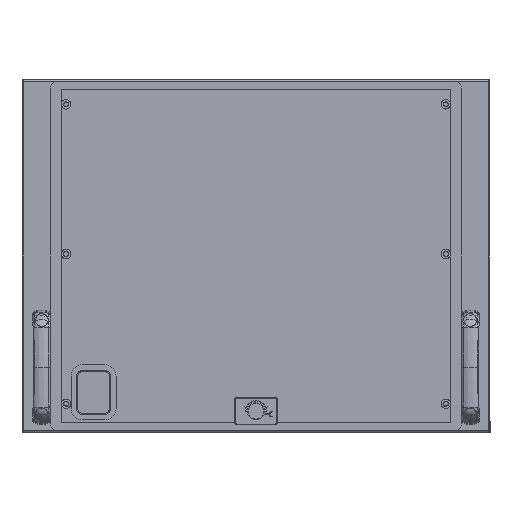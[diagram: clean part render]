
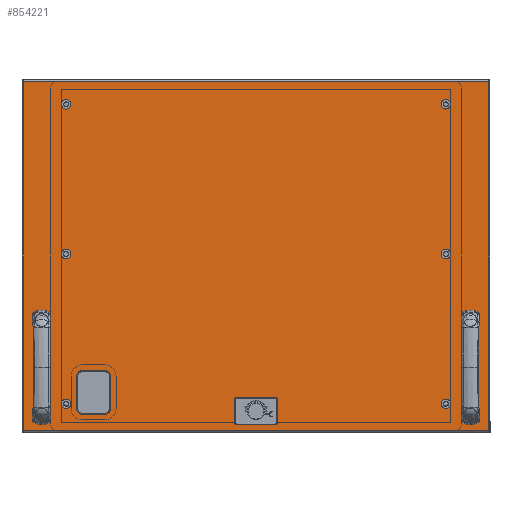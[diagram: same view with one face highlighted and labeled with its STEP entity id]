
A CAD part, front view. The second image highlights one B-rep face of the part: STEP entity #854221.
In plain terms, the highlighted planar face has unit normal (0, -1, 0) as drawn and (0, 0, 1) by its records, which use the part's own axes.
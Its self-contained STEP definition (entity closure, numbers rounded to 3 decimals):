
#851596=CARTESIAN_POINT(' ',(2.3,444.7,0.));
#851597=VERTEX_POINT(' ',#851596);
#851611=CARTESIAN_POINT(' ',(2.3,444.7,0.));
#851616=DIRECTION(' ',(1.,0.,0.));
#851621=VECTOR(' ',#851616,1.);
#851626=LINE('',#851611,#851621);
#851631=CARTESIAN_POINT(' ',(591.7,444.7,0.));
#851632=VERTEX_POINT(' ',#851631);
#851636=EDGE_CURVE(' ',#851597,#851632,#851626,.T.);
#853321=DIRECTION(' ',(-0.,-0.,1.));
#853326=CARTESIAN_POINT(' ',(591.7,2.3,0.));
#853331=DIRECTION(' ',(0.,1.,0.));
#853336=AXIS2_PLACEMENT_3D(' ',#853326,#853321,#853331);
#853341=PLANE('NONE',#853336);
#853346=CARTESIAN_POINT(' ',(591.7,444.7,0.));
#853351=DIRECTION(' ',(0.,-1.,0.));
#853356=VECTOR(' ',#853351,1.);
#853361=LINE('',#853346,#853356);
#853366=CARTESIAN_POINT(' ',(591.7,2.3,0.));
#853367=VERTEX_POINT(' ',#853366);
#853371=EDGE_CURVE(' ',#851632,#853367,#853361,.T.);
#853376=ORIENTED_EDGE(' ',*,*,#853371,.F.);
#853381=ORIENTED_EDGE(' ',*,*,#851636,.F.);
#853386=CARTESIAN_POINT(' ',(2.3,2.3,0.));
#853391=DIRECTION(' ',(0.,1.,0.));
#853396=VECTOR(' ',#853391,1.);
#853401=LINE('',#853386,#853396);
#853406=CARTESIAN_POINT(' ',(2.3,2.3,0.));
#853407=VERTEX_POINT(' ',#853406);
#853411=EDGE_CURVE(' ',#853407,#851597,#853401,.T.);
#853416=ORIENTED_EDGE(' ',*,*,#853411,.F.);
#853421=CARTESIAN_POINT(' ',(591.7,2.3,0.));
#853426=DIRECTION(' ',(-1.,0.,0.));
#853431=VECTOR(' ',#853426,1.);
#853436=LINE('',#853421,#853431);
#853441=EDGE_CURVE(' ',#853367,#853407,#853436,.T.);
#853446=ORIENTED_EDGE(' ',*,*,#853441,.F.);
#853451=EDGE_LOOP(' ',(#853376,#853381,#853416,#853446));
#853456=FACE_OUTER_BOUND(' ',#853451,.T.);
#853461=CARTESIAN_POINT(' ',(104.85,30.,0.));
#853466=DIRECTION(' ',(0.,-0.,1.));
#853471=DIRECTION(' ',(0.,-1.,0.));
#853476=AXIS2_PLACEMENT_3D(' ',#853461,#853466,#853471);
#853481=CIRCLE('',#853476,6.);
#853486=CARTESIAN_POINT(' ',(104.85,24.,0.));
#853487=VERTEX_POINT(' ',#853486);
#853491=CARTESIAN_POINT(' ',(110.85,30.,0.));
#853492=VERTEX_POINT(' ',#853491);
#853496=EDGE_CURVE(' ',#853487,#853492,#853481,.T.);
#853501=ORIENTED_EDGE(' ',*,*,#853496,.F.);
#853506=CARTESIAN_POINT(' ',(76.85,24.,0.));
#853511=DIRECTION(' ',(1.,0.,0.));
#853516=VECTOR(' ',#853511,1.);
#853521=LINE('',#853506,#853516);
#853526=CARTESIAN_POINT(' ',(76.85,24.,0.));
#853527=VERTEX_POINT(' ',#853526);
#853531=EDGE_CURVE(' ',#853527,#853487,#853521,.T.);
#853536=ORIENTED_EDGE(' ',*,*,#853531,.F.);
#853541=CARTESIAN_POINT(' ',(76.85,30.,0.));
#853546=DIRECTION(' ',(-0.,-0.,1.));
#853551=DIRECTION(' ',(-1.,0.,0.));
#853556=AXIS2_PLACEMENT_3D(' ',#853541,#853546,#853551);
#853561=CIRCLE('',#853556,6.);
#853566=CARTESIAN_POINT(' ',(70.85,30.,0.));
#853567=VERTEX_POINT(' ',#853566);
#853571=EDGE_CURVE(' ',#853567,#853527,#853561,.T.);
#853576=ORIENTED_EDGE(' ',*,*,#853571,.F.);
#853581=CARTESIAN_POINT(' ',(70.85,71.,0.));
#853586=DIRECTION(' ',(0.,-1.,0.));
#853591=VECTOR(' ',#853586,1.);
#853596=LINE('',#853581,#853591);
#853601=CARTESIAN_POINT(' ',(70.85,71.,0.));
#853602=VERTEX_POINT(' ',#853601);
#853606=EDGE_CURVE(' ',#853602,#853567,#853596,.T.);
#853611=ORIENTED_EDGE(' ',*,*,#853606,.F.);
#853616=CARTESIAN_POINT(' ',(76.85,71.,0.));
#853621=DIRECTION(' ',(0.,0.,1.));
#853626=DIRECTION(' ',(0.,1.,0.));
#853631=AXIS2_PLACEMENT_3D(' ',#853616,#853621,#853626);
#853636=CIRCLE('',#853631,6.);
#853641=CARTESIAN_POINT(' ',(76.85,77.,0.));
#853642=VERTEX_POINT(' ',#853641);
#853646=EDGE_CURVE(' ',#853642,#853602,#853636,.T.);
#853651=ORIENTED_EDGE(' ',*,*,#853646,.F.);
#853656=CARTESIAN_POINT(' ',(104.85,77.,0.));
#853661=DIRECTION(' ',(-1.,0.,0.));
#853666=VECTOR(' ',#853661,1.);
#853671=LINE('',#853656,#853666);
#853676=CARTESIAN_POINT(' ',(104.85,77.,0.));
#853677=VERTEX_POINT(' ',#853676);
#853681=EDGE_CURVE(' ',#853677,#853642,#853671,.T.);
#853686=ORIENTED_EDGE(' ',*,*,#853681,.F.);
#853691=CARTESIAN_POINT(' ',(104.85,71.,0.));
#853696=DIRECTION(' ',(0.,0.,1.));
#853701=DIRECTION(' ',(1.,0.,0.));
#853706=AXIS2_PLACEMENT_3D(' ',#853691,#853696,#853701);
#853711=CIRCLE('',#853706,6.);
#853716=CARTESIAN_POINT(' ',(110.85,71.,0.));
#853717=VERTEX_POINT(' ',#853716);
#853721=EDGE_CURVE(' ',#853717,#853677,#853711,.T.);
#853726=ORIENTED_EDGE(' ',*,*,#853721,.F.);
#853731=CARTESIAN_POINT(' ',(110.85,30.,0.));
#853736=DIRECTION(' ',(0.,1.,0.));
#853741=VECTOR(' ',#853736,1.);
#853746=LINE('',#853731,#853741);
#853751=EDGE_CURVE(' ',#853492,#853717,#853746,.T.);
#853756=ORIENTED_EDGE(' ',*,*,#853751,.F.);
#853761=EDGE_LOOP(' ',(#853501,#853536,#853576,#853611,#853651,#853686,#853726,#853756));
#853766=FACE_BOUND(' ',#853761,.T.);
#853771=CARTESIAN_POINT(' ',(297.,26.5,0.));
#853776=DIRECTION(' ',(0.,-0.,1.));
#853781=DIRECTION(' ',(-1.,0.,0.));
#853786=AXIS2_PLACEMENT_3D(' ',#853771,#853776,#853781);
#853791=CIRCLE('',#853786,10.);
#853796=CARTESIAN_POINT(' ',(287.,26.5,0.));
#853797=VERTEX_POINT(' ',#853796);
#853801=CARTESIAN_POINT(' ',(307.,26.5,0.));
#853802=VERTEX_POINT(' ',#853801);
#853806=EDGE_CURVE(' ',#853797,#853802,#853791,.T.);
#853811=ORIENTED_EDGE(' ',*,*,#853806,.F.);
#853816=CARTESIAN_POINT(' ',(297.,26.5,0.));
#853821=DIRECTION(' ',(0.,0.,1.));
#853826=DIRECTION(' ',(1.,0.,0.));
#853831=AXIS2_PLACEMENT_3D(' ',#853816,#853821,#853826);
#853836=CIRCLE('',#853831,10.);
#853841=EDGE_CURVE(' ',#853802,#853797,#853836,.T.);
#853846=ORIENTED_EDGE(' ',*,*,#853841,.F.);
#853851=EDGE_LOOP(' ',(#853811,#853846));
#853856=FACE_BOUND(' ',#853851,.T.);
#853861=CARTESIAN_POINT(' ',(569.,23.5,0.));
#853866=DIRECTION(' ',(0.,0.,1.));
#853871=DIRECTION(' ',(0.,1.,0.));
#853876=AXIS2_PLACEMENT_3D(' ',#853861,#853866,#853871);
#853881=CIRCLE('',#853876,3.75);
#853886=CARTESIAN_POINT(' ',(569.,27.25,0.));
#853887=VERTEX_POINT(' ',#853886);
#853891=CARTESIAN_POINT(' ',(569.,19.75,0.));
#853892=VERTEX_POINT(' ',#853891);
#853896=EDGE_CURVE(' ',#853887,#853892,#853881,.T.);
#853901=ORIENTED_EDGE(' ',*,*,#853896,.F.);
#853906=CARTESIAN_POINT(' ',(569.,23.5,0.));
#853911=DIRECTION(' ',(0.,0.,1.));
#853916=DIRECTION(' ',(0.,-1.,0.));
#853921=AXIS2_PLACEMENT_3D(' ',#853906,#853911,#853916);
#853926=CIRCLE('',#853921,3.75);
#853931=EDGE_CURVE(' ',#853892,#853887,#853926,.T.);
#853936=ORIENTED_EDGE(' ',*,*,#853931,.F.);
#853941=EDGE_LOOP(' ',(#853901,#853936));
#853946=FACE_BOUND(' ',#853941,.T.);
#853951=CARTESIAN_POINT(' ',(25.,143.5,0.));
#853956=DIRECTION(' ',(0.,0.,1.));
#853961=DIRECTION(' ',(0.,1.,0.));
#853966=AXIS2_PLACEMENT_3D(' ',#853951,#853956,#853961);
#853971=CIRCLE('',#853966,3.75);
#853976=CARTESIAN_POINT(' ',(25.,147.25,0.));
#853977=VERTEX_POINT(' ',#853976);
#853981=CARTESIAN_POINT(' ',(25.,139.75,0.));
#853982=VERTEX_POINT(' ',#853981);
#853986=EDGE_CURVE(' ',#853977,#853982,#853971,.T.);
#853991=ORIENTED_EDGE(' ',*,*,#853986,.F.);
#853996=CARTESIAN_POINT(' ',(25.,143.5,0.));
#854001=DIRECTION(' ',(0.,0.,1.));
#854006=DIRECTION(' ',(0.,-1.,0.));
#854011=AXIS2_PLACEMENT_3D(' ',#853996,#854001,#854006);
#854016=CIRCLE('',#854011,3.75);
#854021=EDGE_CURVE(' ',#853982,#853977,#854016,.T.);
#854026=ORIENTED_EDGE(' ',*,*,#854021,.F.);
#854031=EDGE_LOOP(' ',(#853991,#854026));
#854036=FACE_BOUND(' ',#854031,.T.);
#854041=CARTESIAN_POINT(' ',(25.,23.5,0.));
#854046=DIRECTION(' ',(0.,0.,1.));
#854051=DIRECTION(' ',(0.,1.,0.));
#854056=AXIS2_PLACEMENT_3D(' ',#854041,#854046,#854051);
#854061=CIRCLE('',#854056,3.75);
#854066=CARTESIAN_POINT(' ',(25.,27.25,0.));
#854067=VERTEX_POINT(' ',#854066);
#854071=CARTESIAN_POINT(' ',(25.,19.75,0.));
#854072=VERTEX_POINT(' ',#854071);
#854076=EDGE_CURVE(' ',#854067,#854072,#854061,.T.);
#854081=ORIENTED_EDGE(' ',*,*,#854076,.F.);
#854086=CARTESIAN_POINT(' ',(25.,23.5,0.));
#854091=DIRECTION(' ',(0.,0.,1.));
#854096=DIRECTION(' ',(0.,-1.,0.));
#854101=AXIS2_PLACEMENT_3D(' ',#854086,#854091,#854096);
#854106=CIRCLE('',#854101,3.75);
#854111=EDGE_CURVE(' ',#854072,#854067,#854106,.T.);
#854116=ORIENTED_EDGE(' ',*,*,#854111,.F.);
#854121=EDGE_LOOP(' ',(#854081,#854116));
#854126=FACE_BOUND(' ',#854121,.T.);
#854131=CARTESIAN_POINT(' ',(569.,143.5,0.));
#854136=DIRECTION(' ',(0.,0.,1.));
#854141=DIRECTION(' ',(0.,1.,0.));
#854146=AXIS2_PLACEMENT_3D(' ',#854131,#854136,#854141);
#854151=CIRCLE('',#854146,3.75);
#854156=CARTESIAN_POINT(' ',(569.,147.25,0.));
#854157=VERTEX_POINT(' ',#854156);
#854161=CARTESIAN_POINT(' ',(569.,139.75,0.));
#854162=VERTEX_POINT(' ',#854161);
#854166=EDGE_CURVE(' ',#854157,#854162,#854151,.T.);
#854171=ORIENTED_EDGE(' ',*,*,#854166,.F.);
#854176=CARTESIAN_POINT(' ',(569.,143.5,0.));
#854181=DIRECTION(' ',(0.,0.,1.));
#854186=DIRECTION(' ',(0.,-1.,0.));
#854191=AXIS2_PLACEMENT_3D(' ',#854176,#854181,#854186);
#854196=CIRCLE('',#854191,3.75);
#854201=EDGE_CURVE(' ',#854162,#854157,#854196,.T.);
#854206=ORIENTED_EDGE(' ',*,*,#854201,.F.);
#854211=EDGE_LOOP(' ',(#854171,#854206));
#854216=FACE_BOUND(' ',#854211,.T.);
#854221=ADVANCED_FACE('NONE',(#853456,#853766,#853856,#853946,#854036,#854126,#854216),#853341,.T.);
